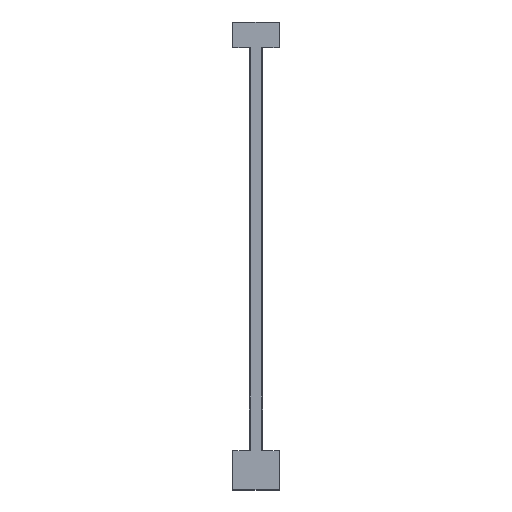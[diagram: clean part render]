
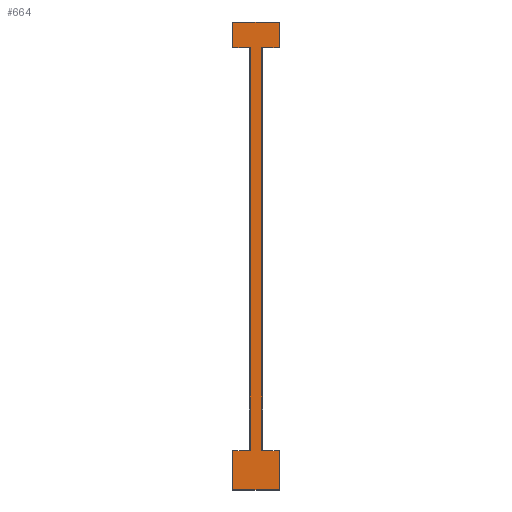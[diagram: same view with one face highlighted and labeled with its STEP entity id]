
A CAD part, top view. The second image highlights one B-rep face of the part: STEP entity #664.
In plain terms, the highlighted planar face has unit normal (0, 0, 1).
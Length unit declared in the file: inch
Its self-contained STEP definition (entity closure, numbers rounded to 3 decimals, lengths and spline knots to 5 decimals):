
#38=PLANE('',#732);
#76=FACE_OUTER_BOUND('',#114,.T.);
#114=EDGE_LOOP('',(#573,#574,#575,#576,#577,#578,#579,#580,#581,#582,#583,
#584,#585,#586,#587,#588,#589,#590,#591,#592));
#148=LINE('',#962,#232);
#164=LINE('',#1003,#248);
#167=LINE('',#1009,#251);
#170=LINE('',#1015,#254);
#187=LINE('',#1049,#271);
#189=LINE('',#1053,#273);
#192=LINE('',#1058,#276);
#194=LINE('',#1062,#278);
#195=LINE('',#1065,#279);
#197=LINE('',#1069,#281);
#199=LINE('',#1073,#283);
#200=LINE('',#1075,#284);
#201=LINE('',#1077,#285);
#202=LINE('',#1079,#286);
#203=LINE('',#1080,#287);
#204=LINE('',#1082,#288);
#205=LINE('',#1084,#289);
#206=LINE('',#1086,#290);
#207=LINE('',#1088,#291);
#208=LINE('',#1089,#292);
#232=VECTOR('',#786,0.3937);
#248=VECTOR('',#828,0.3937);
#251=VECTOR('',#833,0.3937);
#254=VECTOR('',#838,0.3937);
#271=VECTOR('',#859,0.3937);
#273=VECTOR('',#863,0.3937);
#276=VECTOR('',#868,0.3937);
#278=VECTOR('',#872,0.3937);
#279=VECTOR('',#875,0.3937);
#281=VECTOR('',#879,0.3937);
#283=VECTOR('',#883,0.3937);
#284=VECTOR('',#884,0.3937);
#285=VECTOR('',#885,0.3937);
#286=VECTOR('',#886,0.3937);
#287=VECTOR('',#887,0.3937);
#288=VECTOR('',#888,0.3937);
#289=VECTOR('',#889,0.3937);
#290=VECTOR('',#890,0.3937);
#291=VECTOR('',#891,0.3937);
#292=VECTOR('',#892,0.3937);
#310=VERTEX_POINT('',#947);
#311=VERTEX_POINT('',#951);
#322=VERTEX_POINT('',#988);
#323=VERTEX_POINT('',#992);
#326=VERTEX_POINT('',#1007);
#328=VERTEX_POINT('',#1013);
#343=VERTEX_POINT('',#1048);
#344=VERTEX_POINT('',#1052);
#345=VERTEX_POINT('',#1056);
#346=VERTEX_POINT('',#1060);
#347=VERTEX_POINT('',#1064);
#348=VERTEX_POINT('',#1068);
#349=VERTEX_POINT('',#1072);
#350=VERTEX_POINT('',#1074);
#351=VERTEX_POINT('',#1076);
#352=VERTEX_POINT('',#1078);
#353=VERTEX_POINT('',#1081);
#354=VERTEX_POINT('',#1083);
#355=VERTEX_POINT('',#1085);
#356=VERTEX_POINT('',#1087);
#376=EDGE_CURVE('',#310,#311,#148,.T.);
#396=EDGE_CURVE('',#322,#323,#164,.T.);
#399=EDGE_CURVE('',#311,#326,#167,.T.);
#402=EDGE_CURVE('',#326,#328,#170,.T.);
#419=EDGE_CURVE('',#343,#310,#187,.T.);
#421=EDGE_CURVE('',#344,#343,#189,.T.);
#424=EDGE_CURVE('',#323,#345,#192,.T.);
#426=EDGE_CURVE('',#345,#346,#194,.T.);
#427=EDGE_CURVE('',#347,#322,#195,.T.);
#429=EDGE_CURVE('',#348,#347,#197,.T.);
#431=EDGE_CURVE('',#328,#349,#199,.T.);
#432=EDGE_CURVE('',#350,#349,#200,.T.);
#433=EDGE_CURVE('',#351,#350,#201,.T.);
#434=EDGE_CURVE('',#352,#351,#202,.T.);
#435=EDGE_CURVE('',#348,#352,#203,.T.);
#436=EDGE_CURVE('',#346,#353,#204,.T.);
#437=EDGE_CURVE('',#354,#353,#205,.T.);
#438=EDGE_CURVE('',#355,#354,#206,.T.);
#439=EDGE_CURVE('',#356,#355,#207,.T.);
#440=EDGE_CURVE('',#344,#356,#208,.T.);
#573=ORIENTED_EDGE('',*,*,#431,.T.);
#574=ORIENTED_EDGE('',*,*,#432,.F.);
#575=ORIENTED_EDGE('',*,*,#433,.F.);
#576=ORIENTED_EDGE('',*,*,#434,.F.);
#577=ORIENTED_EDGE('',*,*,#435,.F.);
#578=ORIENTED_EDGE('',*,*,#429,.T.);
#579=ORIENTED_EDGE('',*,*,#427,.T.);
#580=ORIENTED_EDGE('',*,*,#396,.T.);
#581=ORIENTED_EDGE('',*,*,#424,.T.);
#582=ORIENTED_EDGE('',*,*,#426,.T.);
#583=ORIENTED_EDGE('',*,*,#436,.T.);
#584=ORIENTED_EDGE('',*,*,#437,.F.);
#585=ORIENTED_EDGE('',*,*,#438,.F.);
#586=ORIENTED_EDGE('',*,*,#439,.F.);
#587=ORIENTED_EDGE('',*,*,#440,.F.);
#588=ORIENTED_EDGE('',*,*,#421,.T.);
#589=ORIENTED_EDGE('',*,*,#419,.T.);
#590=ORIENTED_EDGE('',*,*,#376,.T.);
#591=ORIENTED_EDGE('',*,*,#399,.T.);
#592=ORIENTED_EDGE('',*,*,#402,.T.);
#664=ADVANCED_FACE('',(#76),#38,.T.);
#732=AXIS2_PLACEMENT_3D('',#1071,#881,#882);
#786=DIRECTION('',(0.,1.,0.));
#828=DIRECTION('',(0.,-1.,0.));
#833=DIRECTION('',(-1.,0.,0.));
#838=DIRECTION('',(0.,1.,0.));
#859=DIRECTION('',(1.,0.,0.));
#863=DIRECTION('',(0.,1.,0.));
#868=DIRECTION('',(1.,0.,0.));
#872=DIRECTION('',(0.,-1.,0.));
#875=DIRECTION('',(-1.,0.,0.));
#879=DIRECTION('',(0.,-1.,0.));
#881=DIRECTION('center_axis',(0.,0.,1.));
#882=DIRECTION('ref_axis',(1.,0.,0.));
#883=DIRECTION('',(1.,0.,0.));
#884=DIRECTION('',(0.,-1.,0.));
#885=DIRECTION('',(1.,0.,0.));
#886=DIRECTION('',(0.,1.,0.));
#887=DIRECTION('',(-1.,0.,0.));
#888=DIRECTION('',(-1.,0.,0.));
#889=DIRECTION('',(0.,1.,0.));
#890=DIRECTION('',(-1.,0.,0.));
#891=DIRECTION('',(0.,-1.,0.));
#892=DIRECTION('',(1.,0.,0.));
#947=CARTESIAN_POINT('',(0.2725,-8.9175,0.02));
#951=CARTESIAN_POINT('',(0.2725,9.5425,0.02));
#962=CARTESIAN_POINT('',(0.2725,4.78058,0.02));
#988=CARTESIAN_POINT('',(-0.2725,9.5425,0.02));
#992=CARTESIAN_POINT('',(-0.2725,-8.9175,0.02));
#1003=CARTESIAN_POINT('',(-0.2725,-4.44942,0.02));
#1007=CARTESIAN_POINT('',(0.2625,9.5425,0.02));
#1009=CARTESIAN_POINT('',(0.13125,9.5425,0.02));
#1013=CARTESIAN_POINT('',(0.2625,9.5625,0.02));
#1015=CARTESIAN_POINT('',(0.2625,4.79058,0.02));
#1048=CARTESIAN_POINT('',(0.2625,-8.9175,0.02));
#1049=CARTESIAN_POINT('',(0.15625,-8.9175,0.02));
#1052=CARTESIAN_POINT('',(0.2625,-8.9375,0.02));
#1053=CARTESIAN_POINT('',(0.2625,-4.44942,0.02));
#1056=CARTESIAN_POINT('',(-0.2625,-8.9175,0.02));
#1058=CARTESIAN_POINT('',(-0.13125,-8.9175,0.02));
#1060=CARTESIAN_POINT('',(-0.2625,-8.9375,0.02));
#1062=CARTESIAN_POINT('',(-0.2625,-4.45942,0.02));
#1064=CARTESIAN_POINT('',(-0.2625,9.5425,0.02));
#1065=CARTESIAN_POINT('',(-0.15625,9.5425,0.02));
#1068=CARTESIAN_POINT('',(-0.2625,9.5625,0.02));
#1069=CARTESIAN_POINT('',(-0.2625,4.78058,0.02));
#1071=CARTESIAN_POINT('Origin',(0.,0.01866,
0.02));
#1072=CARTESIAN_POINT('',(1.0625,9.5625,0.02));
#1073=CARTESIAN_POINT('',(0.15625,9.5625,0.02));
#1074=CARTESIAN_POINT('',(1.0625,10.75,0.02));
#1075=CARTESIAN_POINT('',(1.0625,9.5625,0.02));
#1076=CARTESIAN_POINT('',(-1.0625,10.75,0.02));
#1077=CARTESIAN_POINT('',(1.0625,10.75,0.02));
#1078=CARTESIAN_POINT('',(-1.0625,9.5625,0.02));
#1079=CARTESIAN_POINT('',(-1.0625,10.75,0.02));
#1080=CARTESIAN_POINT('',(-1.0625,9.5625,0.02));
#1081=CARTESIAN_POINT('',(-1.0625,-8.9375,0.02));
#1082=CARTESIAN_POINT('',(-0.15625,-8.9375,0.02));
#1083=CARTESIAN_POINT('',(-1.0625,-10.75,0.02));
#1084=CARTESIAN_POINT('',(-1.0625,-8.9375,0.02));
#1085=CARTESIAN_POINT('',(1.0625,-10.75,0.02));
#1086=CARTESIAN_POINT('',(-1.0625,-10.75,0.02));
#1087=CARTESIAN_POINT('',(1.0625,-8.9375,0.02));
#1088=CARTESIAN_POINT('',(1.0625,-10.75,0.02));
#1089=CARTESIAN_POINT('',(1.0625,-8.9375,0.02));
